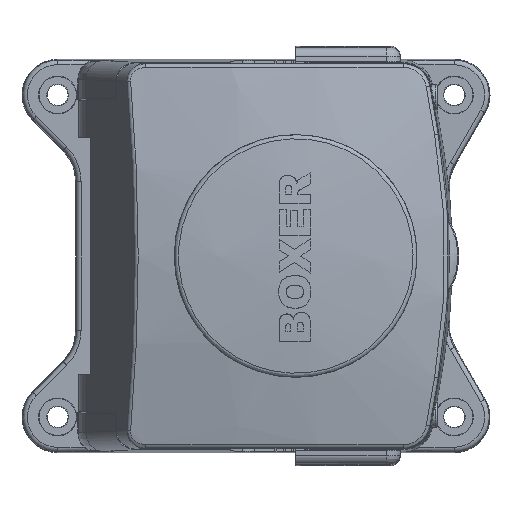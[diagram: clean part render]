
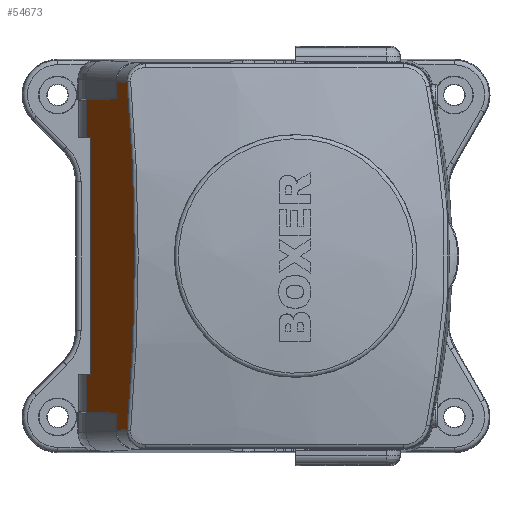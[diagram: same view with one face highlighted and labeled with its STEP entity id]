
A CAD part, left-side view. The second image highlights one B-rep face of the part: STEP entity #54673.
In plain terms, the highlighted planar face has unit normal (-0.391, 0.92, 0).
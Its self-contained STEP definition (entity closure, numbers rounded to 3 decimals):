
#189 = DIRECTION ( 'NONE',  ( 0.391, -0.92, 0. ) ) ;
#1732 = VECTOR ( 'NONE', #80651, 1000. ) ;
#2468 = CARTESIAN_POINT ( 'NONE',  ( -14.251, 36.139, -37.232 ) ) ;
#2687 = CARTESIAN_POINT ( 'NONE',  ( 6.357, 44.904, -49.851 ) ) ;
#3749 = LINE ( 'NONE', #40281, #67930 ) ;
#4649 = VERTEX_POINT ( 'NONE', #21431 ) ;
#5030 = ORIENTED_EDGE ( 'NONE', *, *, #37223, .F. ) ;
#5049 = LINE ( 'NONE', #34392, #7025 ) ;
#5977 = CARTESIAN_POINT ( 'NONE',  ( 3.892, 43.856, -29.788 ) ) ;
#6423 = LINE ( 'NONE', #65650, #76147 ) ;
#6757 = ORIENTED_EDGE ( 'NONE', *, *, #64255, .F. ) ;
#7025 = VECTOR ( 'NONE', #77823, 1000. ) ;
#8328 = CARTESIAN_POINT ( 'NONE',  ( -8.939, 38.398, -33.706 ) ) ;
#8406 = EDGE_CURVE ( 'NONE', #78726, #24641, #6423, .T. ) ;
#8817 = CARTESIAN_POINT ( 'NONE',  ( -8.7, 38.5, 49.851 ) ) ;
#9031 = VERTEX_POINT ( 'NONE', #31581 ) ;
#11209 = CARTESIAN_POINT ( 'NONE',  ( -8.939, 38.398, 33.706 ) ) ;
#11542 = LINE ( 'NONE', #93895, #16211 ) ;
#11589 = DIRECTION ( 'NONE',  ( 0., 0., -1. ) ) ;
#12450 = DIRECTION ( 'NONE',  ( 0.92, 0.391, -0.016 ) ) ;
#13837 = CARTESIAN_POINT ( 'NONE',  ( -14.251, 36.139, 37.232 ) ) ;
#14149 = LINE ( 'NONE', #5977, #1732 ) ;
#15294 = VERTEX_POINT ( 'NONE', #13837 ) ;
#15500 = EDGE_CURVE ( 'NONE', #58018, #15294, #57198, .T. ) ;
#15670 = AXIS2_PLACEMENT_3D ( 'NONE', #20981, #71077, #49329 ) ;
#16211 = VECTOR ( 'NONE', #12450, 1000. ) ;
#18804 = CARTESIAN_POINT ( 'NONE',  ( 6.357, 44.904, 49.851 ) ) ;
#20981 = CARTESIAN_POINT ( 'NONE',  ( 139.39, 101.488, 0. ) ) ;
#21379 = CARTESIAN_POINT ( 'NONE',  ( 6.357, 44.904, -25.5 ) ) ;
#21431 = CARTESIAN_POINT ( 'NONE',  ( -8.85, 38.436, -33.704 ) ) ;
#22330 = LINE ( 'NONE', #21379, #68127 ) ;
#22357 = AXIS2_PLACEMENT_3D ( 'NONE', #8817, #189, #38179 ) ;
#23062 = EDGE_CURVE ( 'NONE', #9031, #4649, #74384, .T. ) ;
#24641 = VERTEX_POINT ( 'NONE', #84211 ) ;
#25597 = EDGE_LOOP ( 'NONE', ( #67382, #6757, #34390, #72156, #81932, #5030, #83647, #91978, #81184, #89434, #90798, #27872 ) ) ;
#25757 = DIRECTION ( 'NONE',  ( 0., 0., 1. ) ) ;
#26103 = VERTEX_POINT ( 'NONE', #62408 ) ;
#26234 = LINE ( 'NONE', #2687, #44519 ) ;
#26679 = CARTESIAN_POINT ( 'NONE',  ( 6.357, 44.904, 25.5 ) ) ;
#27872 = ORIENTED_EDGE ( 'NONE', *, *, #49180, .T. ) ;
#28930 = VECTOR ( 'NONE', #60840, 1000. ) ;
#29064 = FACE_OUTER_BOUND ( 'NONE', #25597, .T. ) ;
#30911 = CARTESIAN_POINT ( 'NONE',  ( -8.85, 38.436, 33.704 ) ) ;
#31581 = CARTESIAN_POINT ( 'NONE',  ( 6.357, 44.904, -33.439 ) ) ;
#34032 = DIRECTION ( 'NONE',  ( -0.92, -0.391, 0. ) ) ;
#34390 = ORIENTED_EDGE ( 'NONE', *, *, #43137, .F. ) ;
#34392 = CARTESIAN_POINT ( 'NONE',  ( -8.791, 38.461, 37.328 ) ) ;
#37223 = EDGE_CURVE ( 'NONE', #58018, #40840, #11542, .T. ) ;
#38179 = DIRECTION ( 'NONE',  ( 0.92, 0.391, 0. ) ) ;
#40062 = DIRECTION ( 'NONE',  ( -0.92, -0.391, 0.016 ) ) ;
#40281 = CARTESIAN_POINT ( 'NONE',  ( 6.357, 44.904, 25.5 ) ) ;
#40840 = VERTEX_POINT ( 'NONE', #67669 ) ;
#41914 = DIRECTION ( 'NONE',  ( 0., 0., -1. ) ) ;
#42684 = VECTOR ( 'NONE', #11589, 1000. ) ;
#43137 = EDGE_CURVE ( 'NONE', #9031, #69498, #26234, .T. ) ;
#44519 = VECTOR ( 'NONE', #25757, 1000. ) ;
#46041 = VECTOR ( 'NONE', #41914, 1000. ) ;
#46517 = CARTESIAN_POINT ( 'NONE',  ( 6.357, 44.904, 33.439 ) ) ;
#47683 = EDGE_CURVE ( 'NONE', #4649, #40840, #77685, .T. ) ;
#48495 = VERTEX_POINT ( 'NONE', #26679 ) ;
#48593 = EDGE_CURVE ( 'NONE', #26103, #63659, #14149, .T. ) ;
#49180 = EDGE_CURVE ( 'NONE', #48495, #63659, #3749, .T. ) ;
#49329 = DIRECTION ( 'NONE',  ( 0.92, 0.391, 0. ) ) ;
#53607 = EDGE_CURVE ( 'NONE', #15294, #24641, #5049, .T. ) ;
#53933 = CARTESIAN_POINT ( 'NONE',  ( 3.892, 43.856, 25.5 ) ) ;
#54673 = ADVANCED_FACE ( 'NONE', ( #29064 ), #74886, .F. ) ;
#56395 = EDGE_CURVE ( 'NONE', #80216, #48495, #84834, .T. ) ;
#57198 = CIRCLE ( 'NONE', #15670, 171.062 ) ;
#58018 = VERTEX_POINT ( 'NONE', #2468 ) ;
#60840 = DIRECTION ( 'NONE',  ( -0.92, -0.391, -0.016 ) ) ;
#62408 = CARTESIAN_POINT ( 'NONE',  ( 3.892, 43.856, -25.5 ) ) ;
#63659 = VERTEX_POINT ( 'NONE', #53933 ) ;
#64255 = EDGE_CURVE ( 'NONE', #69498, #26103, #22330, .T. ) ;
#65650 = CARTESIAN_POINT ( 'NONE',  ( -8.85, 38.436, 33.3 ) ) ;
#67382 = ORIENTED_EDGE ( 'NONE', *, *, #48593, .F. ) ;
#67669 = CARTESIAN_POINT ( 'NONE',  ( -8.85, 38.436, -37.327 ) ) ;
#67930 = VECTOR ( 'NONE', #34032, 1000. ) ;
#68127 = VECTOR ( 'NONE', #71983, 1000. ) ;
#69498 = VERTEX_POINT ( 'NONE', #85482 ) ;
#71077 = DIRECTION ( 'NONE',  ( -0.391, 0.92, 0. ) ) ;
#71983 = DIRECTION ( 'NONE',  ( -0.92, -0.391, 0. ) ) ;
#72156 = ORIENTED_EDGE ( 'NONE', *, *, #23062, .T. ) ;
#72264 = VECTOR ( 'NONE', #40062, 1000. ) ;
#74384 = LINE ( 'NONE', #8328, #28930 ) ;
#74886 = PLANE ( 'NONE',  #22357 ) ;
#76147 = VECTOR ( 'NONE', #95081, 1000. ) ;
#77685 = LINE ( 'NONE', #78598, #46041 ) ;
#77736 = LINE ( 'NONE', #11209, #72264 ) ;
#77823 = DIRECTION ( 'NONE',  ( 0.92, 0.391, 0.016 ) ) ;
#78598 = CARTESIAN_POINT ( 'NONE',  ( -8.85, 38.436, -33.3 ) ) ;
#78726 = VERTEX_POINT ( 'NONE', #30911 ) ;
#80216 = VERTEX_POINT ( 'NONE', #46517 ) ;
#80651 = DIRECTION ( 'NONE',  ( 0., 0., 1. ) ) ;
#81184 = ORIENTED_EDGE ( 'NONE', *, *, #8406, .F. ) ;
#81932 = ORIENTED_EDGE ( 'NONE', *, *, #47683, .T. ) ;
#83271 = EDGE_CURVE ( 'NONE', #80216, #78726, #77736, .T. ) ;
#83647 = ORIENTED_EDGE ( 'NONE', *, *, #15500, .T. ) ;
#84211 = CARTESIAN_POINT ( 'NONE',  ( -8.85, 38.436, 37.327 ) ) ;
#84834 = LINE ( 'NONE', #18804, #42684 ) ;
#85482 = CARTESIAN_POINT ( 'NONE',  ( 6.357, 44.904, -25.5 ) ) ;
#89434 = ORIENTED_EDGE ( 'NONE', *, *, #83271, .F. ) ;
#90798 = ORIENTED_EDGE ( 'NONE', *, *, #56395, .T. ) ;
#91978 = ORIENTED_EDGE ( 'NONE', *, *, #53607, .T. ) ;
#93895 = CARTESIAN_POINT ( 'NONE',  ( -8.791, 38.461, -37.328 ) ) ;
#95081 = DIRECTION ( 'NONE',  ( 0., 0., 1. ) ) ;
